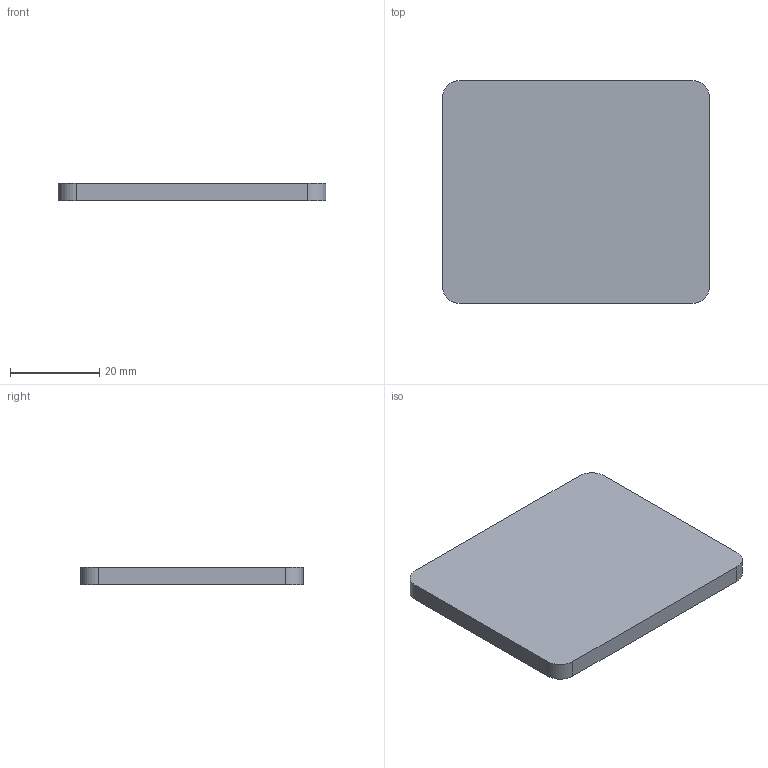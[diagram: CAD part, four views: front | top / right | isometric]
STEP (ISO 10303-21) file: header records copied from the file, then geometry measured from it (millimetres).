
FILE_DESCRIPTION(/* description */ (''),/* implementation_level */ '2;1');
FILE_NAME(/* name */ 'Plaster_Baseplate_GAMMA.stp',/* time_stamp */ '2025-05-27T11:26:22+02:00',/* author */ ('dw'),/* organization */ (''),/* preprocessor_version */ 'ST-DEVELOPER v20',/* originating_system */ 'Autodesk Inventor 2025',/* authorisation */ '');
FILE_SCHEMA (('AUTOMOTIVE_DESIGN { 1 0 10303 214 3 1 1 }'));
Length unit declared in the file: millimetre
Products named in the file (2): Baugruppe1; Gipsplatte V3 
Assembly tree (1 placements, depth 2):
  Baugruppe1
    Gipsplatte V3 
Bounding box: 60 x 50 x 4 mm (x, y, z)
Volume: 8154.5 mm3; surface area: 8566.6 mm2
Topology: 1 solids, 1 shells, 75 faces, 192 edges, 131 vertices
Faces by surface type: plane 43, cone 28, cylinder 4
Entity records: 2374 total; most frequent: DIRECTION 412, CARTESIAN_POINT 401, ORIENTED_EDGE 384, EDGE_CURVE 192, AXIS2_PLACEMENT_3D 142, LINE 128, VECTOR 128, VERTEX_POINT 128
